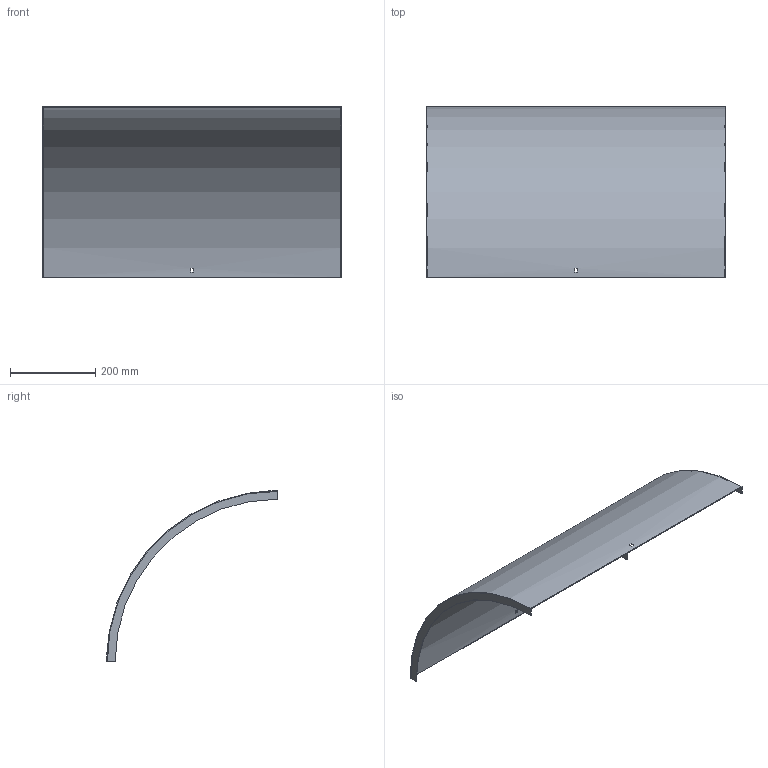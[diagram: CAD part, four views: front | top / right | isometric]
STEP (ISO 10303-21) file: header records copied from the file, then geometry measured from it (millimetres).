
FILE_DESCRIPTION (( 'STEP AP214' ), '1' );
FILE_NAME ('B2_33N3D700.step', '2025-02-21T10:47:16', ( '' ), ( '' ), 'SwSTEP 2.0', 'SolidWorks 2023', '' );
FILE_SCHEMA (( 'AUTOMOTIVE_DESIGN' ));
Length unit declared in the file: millimetre
Products named in the file (1): B2_33N3D700
Bounding box: 703 x 401.5 x 401.5 mm (x, y, z)
Volume: 697693.8 mm3; surface area: 934372.8 mm2
Topology: 1 solids, 1 shells, 18 faces, 48 edges, 32 vertices
Faces by surface type: plane 14, cylinder 4
Entity records: 599 total; most frequent: DIRECTION 102, CARTESIAN_POINT 99, ORIENTED_EDGE 96, EDGE_CURVE 48, AXIS2_PLACEMENT_3D 35, LINE 32, VECTOR 32, VERTEX_POINT 32
